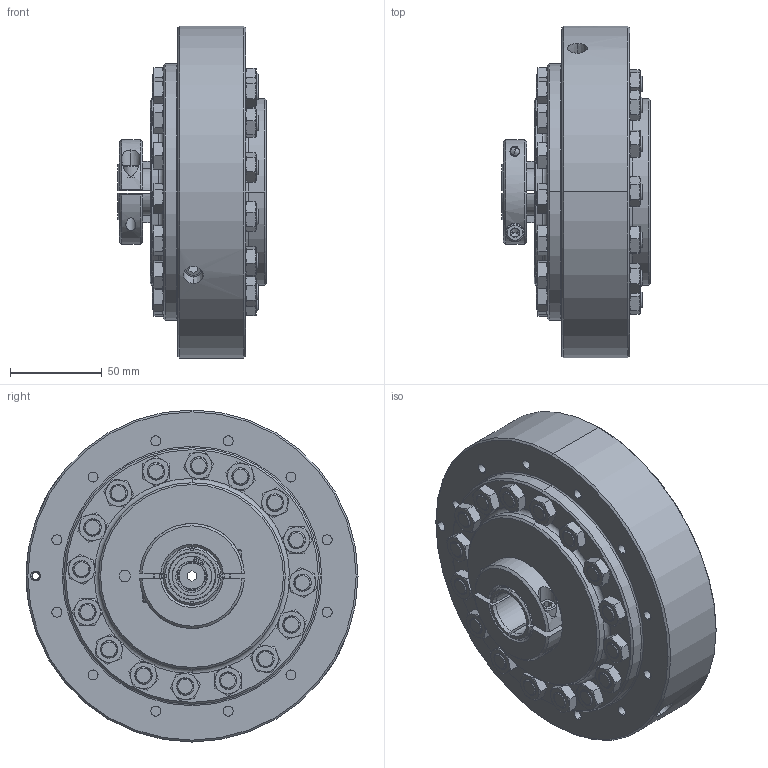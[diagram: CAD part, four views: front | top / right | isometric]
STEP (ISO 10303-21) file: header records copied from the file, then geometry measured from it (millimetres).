
FILE_DESCRIPTION (( 'STEP AP214' ), '1' );
FILE_NAME ('DN04RRRFTLN0000.STEP', '2019-10-30T17:00:54', ( '' ), ( '' ), 'SwSTEP 2.0', 'SolidWorks 2019', '' );
FILE_SCHEMA (( 'AUTOMOTIVE_DESIGN' ));
Length unit declared in the file: millimetre
Products named in the file (1): DN04RRRFTLN0000
Bounding box: 80.82 x 180.85 x 180.85 mm (x, y, z)
Surface area: 121431.5 mm2 (no closed solid volume)
Topology: 0 solids, 92 shells, 897 faces, 2354 edges, 1535 vertices
Faces by surface type: cone 388, plane 308, cylinder 187, bspline 8, torus 6
Entity records: 43456 total; most frequent: CARTESIAN_POINT 12828, DIRECTION 4211, ORIENTED_EDGE 3939, EDGE_CURVE 2350, AXIS2_PLACEMENT_3D 1771, VERTEX_POINT 1535, EDGE_LOOP 1018, UNCERTAINTY_MEASURE_WITH_UNIT 899
